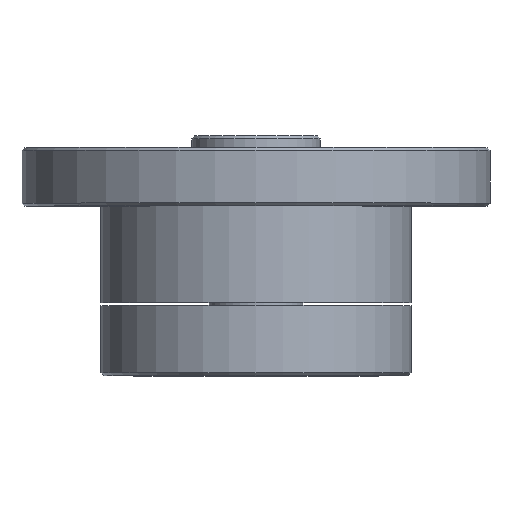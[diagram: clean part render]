
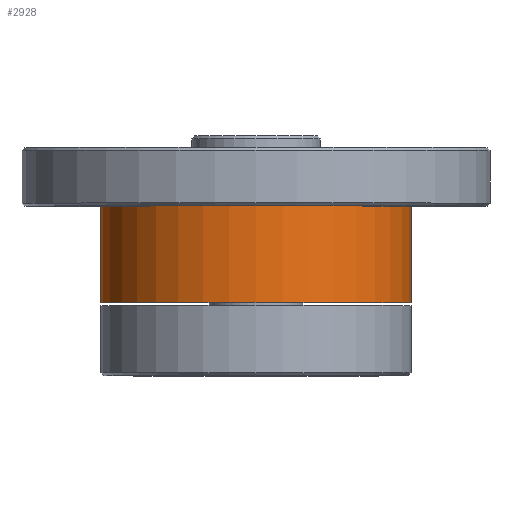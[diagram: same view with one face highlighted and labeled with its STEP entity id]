
A CAD part, top view. The second image highlights one B-rep face of the part: STEP entity #2928.
In plain terms, the highlighted cylindrical face has radius 26.5 mm (diameter 53 mm), a partial arc.
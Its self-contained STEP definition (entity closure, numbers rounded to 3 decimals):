
#50 = CARTESIAN_POINT ( 'NONE',  ( 0., -10., 0. ) ) ;
#178 = VERTEX_POINT ( 'NONE', #2805 ) ;
#189 = CARTESIAN_POINT ( 'NONE',  ( 0., -26.5, 0. ) ) ;
#341 = EDGE_LOOP ( 'NONE', ( #2582, #1827, #881, #932 ) ) ;
#606 = CARTESIAN_POINT ( 'NONE',  ( -26.5, -26.5, 0. ) ) ;
#697 = CARTESIAN_POINT ( 'NONE',  ( 26.5, -39., 0. ) ) ;
#729 = VERTEX_POINT ( 'NONE', #1942 ) ;
#881 = ORIENTED_EDGE ( 'NONE', *, *, #3063, .F. ) ;
#932 = ORIENTED_EDGE ( 'NONE', *, *, #2282, .F. ) ;
#1007 = LINE ( 'NONE', #697, #3231 ) ;
#1135 = CARTESIAN_POINT ( 'NONE',  ( 0., -39., 0. ) ) ;
#1241 = CIRCLE ( 'NONE', #1641, 26.5 ) ;
#1322 = DIRECTION ( 'NONE',  ( 0., -1., 0. ) ) ;
#1426 = AXIS2_PLACEMENT_3D ( 'NONE', #1135, #3704, #2168 ) ;
#1641 = AXIS2_PLACEMENT_3D ( 'NONE', #189, #2441, #3691 ) ;
#1827 = ORIENTED_EDGE ( 'NONE', *, *, #3490, .T. ) ;
#1865 = LINE ( 'NONE', #3105, #2310 ) ;
#1942 = CARTESIAN_POINT ( 'NONE',  ( -26.5, -10., 0. ) ) ;
#2015 = DIRECTION ( 'NONE',  ( 0., -1., 0. ) ) ;
#2168 = DIRECTION ( 'NONE',  ( 1., 0., 0. ) ) ;
#2203 = CIRCLE ( 'NONE', #2728, 26.5 ) ;
#2282 = EDGE_CURVE ( 'NONE', #2792, #178, #1007, .T. ) ;
#2310 = VECTOR ( 'NONE', #2493, 1000. ) ;
#2441 = DIRECTION ( 'NONE',  ( 0., -1., 0. ) ) ;
#2493 = DIRECTION ( 'NONE',  ( 0., -1., 0. ) ) ;
#2582 = ORIENTED_EDGE ( 'NONE', *, *, #4095, .T. ) ;
#2596 = DIRECTION ( 'NONE',  ( 1., 0., 0. ) ) ;
#2728 = AXIS2_PLACEMENT_3D ( 'NONE', #50, #1322, #2596 ) ;
#2776 = CARTESIAN_POINT ( 'NONE',  ( 26.5, -10., 0. ) ) ;
#2792 = VERTEX_POINT ( 'NONE', #2776 ) ;
#2805 = CARTESIAN_POINT ( 'NONE',  ( 26.5, -26.5, 0. ) ) ;
#2928 = ADVANCED_FACE ( 'NONE', ( #3771 ), #4060, .T. ) ;
#3063 = EDGE_CURVE ( 'NONE', #178, #3881, #1241, .T. ) ;
#3105 = CARTESIAN_POINT ( 'NONE',  ( -26.5, -39., 0. ) ) ;
#3231 = VECTOR ( 'NONE', #2015, 1000. ) ;
#3490 = EDGE_CURVE ( 'NONE', #729, #3881, #1865, .T. ) ;
#3691 = DIRECTION ( 'NONE',  ( 1., 0., 0. ) ) ;
#3704 = DIRECTION ( 'NONE',  ( 0., -1., 0. ) ) ;
#3771 = FACE_OUTER_BOUND ( 'NONE', #341, .T. ) ;
#3881 = VERTEX_POINT ( 'NONE', #606 ) ;
#4060 = CYLINDRICAL_SURFACE ( 'NONE', #1426, 26.5 ) ;
#4095 = EDGE_CURVE ( 'NONE', #2792, #729, #2203, .T. ) ;
